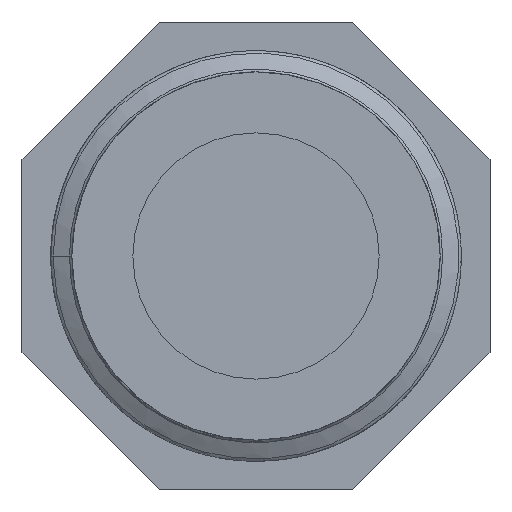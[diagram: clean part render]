
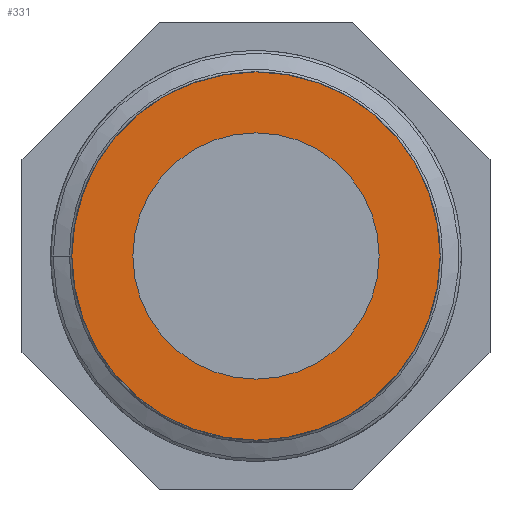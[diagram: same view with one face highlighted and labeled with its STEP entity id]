
A CAD part, front view. The second image highlights one B-rep face of the part: STEP entity #331.
In plain terms, the highlighted planar face has unit normal (0, -1, 0).
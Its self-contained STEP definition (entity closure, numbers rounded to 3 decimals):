
#17=FACE_BOUND('',#80,.T.);
#31=PLANE('',#354);
#36=CIRCLE('',#340,7.475);
#38=CIRCLE('',#353,5.);
#57=FACE_OUTER_BOUND('',#79,.T.);
#79=EDGE_LOOP('',(#298));
#80=EDGE_LOOP('',(#299));
#155=VERTEX_POINT('',#2646);
#175=VERTEX_POINT('',#4000);
#193=EDGE_CURVE('',#155,#155,#36,.T.);
#219=EDGE_CURVE('',#175,#175,#38,.T.);
#298=ORIENTED_EDGE('',*,*,#193,.T.);
#299=ORIENTED_EDGE('',*,*,#219,.T.);
#331=ADVANCED_FACE('',(#57,#17),#31,.F.);
#340=AXIS2_PLACEMENT_3D('',#3946,#371,#372);
#353=AXIS2_PLACEMENT_3D('',#4001,#421,#422);
#354=AXIS2_PLACEMENT_3D('',#4002,#423,#424);
#371=DIRECTION('center_axis',(0.,-1.,0.));
#372=DIRECTION('ref_axis',(1.,0.,0.));
#421=DIRECTION('center_axis',(0.,1.,0.));
#422=DIRECTION('ref_axis',(1.,0.,0.));
#423=DIRECTION('center_axis',(0.,1.,0.));
#424=DIRECTION('ref_axis',(0.,0.,1.));
#2646=CARTESIAN_POINT('',(-7.475,0.,0.));
#3946=CARTESIAN_POINT('Origin',(0.,0.,0.));
#4000=CARTESIAN_POINT('',(-5.,0.,0.));
#4001=CARTESIAN_POINT('Origin',(0.,0.,0.));
#4002=CARTESIAN_POINT('Origin',(0.,0.,0.));
